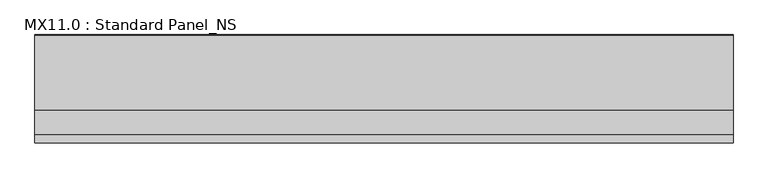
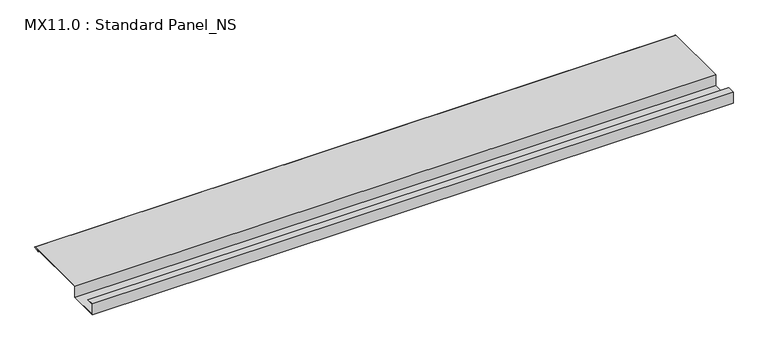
"""IFC4 building model written with IfcOpenShell, lengths in millimetres: proxy geometry, MX11.0 : Standard Panel_NS."""

from ifc_helpers import new_model, si_unit, point, frame, frame_2d, origin, place, context, project, spatial, polyline, circle_curve, trimmed, segment, composite_curve, outline, extrude, source, transform, mapped, element, save


def mx11_0_standard_panel_ns_816acfb4(model_context):
    return source(origin(), model_context, "Body", "SweptSolid", [
        extrude(outline(composite_curve([segment(polyline([(0.0, 0.0), (25.0, 0.0), (25.0, -1.0), (1.0, -1.0), (1.0, -37.0), (99.0, -37.0), (99.0, 1.0), (325.0510156, 1.0)]), True, "CONTINUOUS"), segment(trimmed(circle_curve(frame_2d((324.3094696, -0.9153551)), 2.0538928), [point((325.0510156, 1.0))], [point((325.1748462, -2.778041))], False, "CARTESIAN"), True, "CONTINUOUS"), segment(polyline([(325.1748462, -2.778041), (308.7874714, -5.923107), (308.5989911, -4.94103), (324.8448691, -1.8231201)]), True, "CONTINUOUS"), segment(trimmed(circle_curve(frame_2d((324.3094696, -0.9153551)), 1.0538928), [point((324.8448691, -1.8231201))], [point((324.8317866, 0.0))], True, "CARTESIAN"), True, "CONTINUOUS"), segment(polyline([(324.8317866, 0.0), (100.0, 0.0), (100.0, -38.0), (0.0, -38.0), (0.0, 0.0)]), True, "CONTINUOUS")], self_intersect=False)), frame((0.0, 0.0, 0.0), z_axis=(1.0, 0.0, 0.0), x_axis=(0.0, 1.0, 0.0)), (0.0, 0.0, 1.0), 2100.0),
    ])


if __name__ == "__main__":
    model = new_model("IFC4")
    model_context = context("Model", 3, world=origin())
    ifc_project = project(units=[si_unit("LENGTHUNIT", "METRE", prefix="MILLI")], contexts=[model_context])
    site = spatial("IfcSite", under=ifc_project)
    building = spatial("IfcBuilding", under=site)
    placement = place(None, origin())
    mx11_0_standard_panel_ns_shape = mx11_0_standard_panel_ns_816acfb4(model_context)
    element("IfcBuildingElementProxy", 1, Name="MX11.0 : Standard Panel_NS", ObjectType="MX11.0 : Standard Panel_NS", at=placement, inside=building, context=model_context, shape_type="MappedRepresentation", body=[
        mapped(mx11_0_standard_panel_ns_shape, transform((0.0, 0.0, 0.0), x_axis=(1.0, 0.0, 0.0), y_axis=(0.0, 1.0, 0.0), z_axis=(0.0, 0.0, 1.0))),
    ])
    save(model, "model.ifc")
